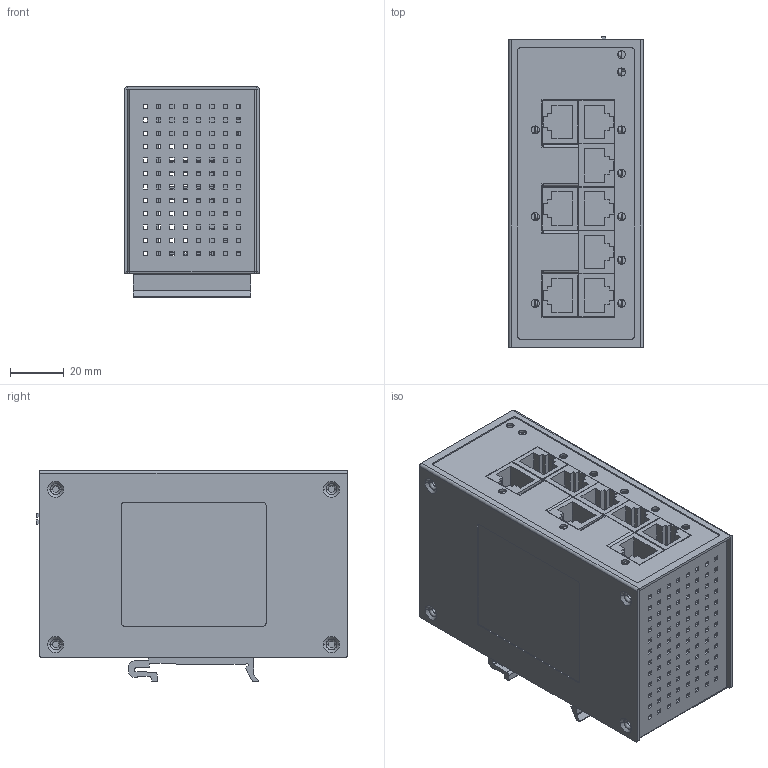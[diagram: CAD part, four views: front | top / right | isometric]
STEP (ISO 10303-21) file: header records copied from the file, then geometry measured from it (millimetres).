
FILE_DESCRIPTION((''),'2;1');
FILE_NAME('EN8-R','2018-02-19T',('TReuther'),(''),'PRO/ENGINEER BY PARAMETRIC TECHNOLOGY CORPORATION, 2015280','PRO/ENGINEER BY PARAMETRIC TECHNOLOGY CORPORATION, 2015280','');
FILE_SCHEMA(('CONFIG_CONTROL_DESIGN'));
Products named in the file (1): EN8-R
Bounding box: 50.3 x 116.2 x 78.8 mm (x, y, z)
Surface area: 145894.1 mm2 (no closed solid volume)
Topology: 0 solids, 67 shells, 3936 faces, 9841 edges, 6266 vertices
Faces by surface type: plane 3283, cylinder 543, torus 64, cone 46
Entity records: 116275 total; most frequent: CARTESIAN_POINT 20141, ORIENTED_EDGE 19674, DIRECTION 19167, EDGE_CURVE 9841, VECTOR 8359, LINE 8359, VERTEX_POINT 6266, AXIS2_PLACEMENT_3D 5404
